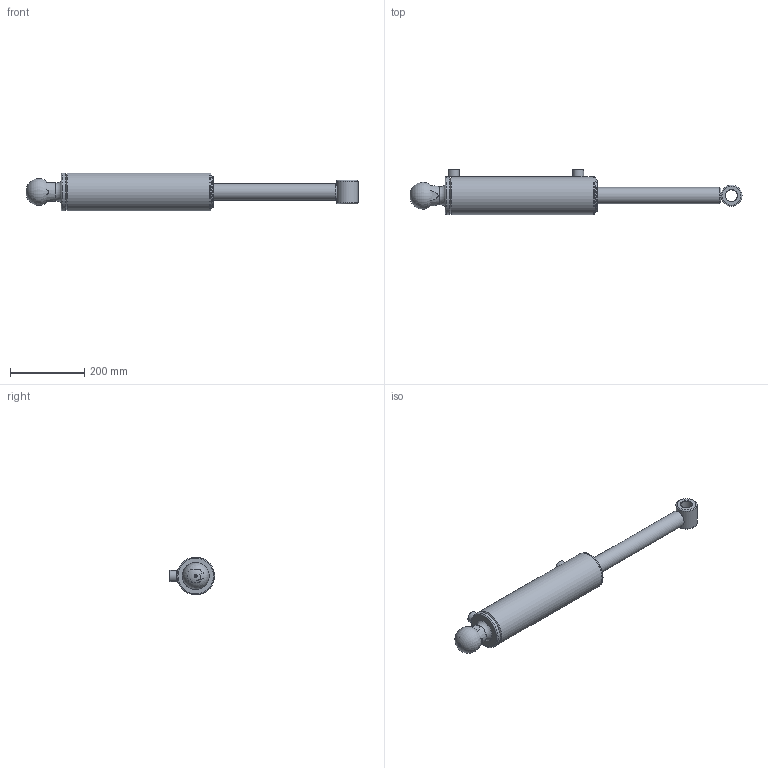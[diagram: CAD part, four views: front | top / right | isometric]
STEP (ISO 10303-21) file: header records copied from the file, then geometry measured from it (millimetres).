
FILE_DESCRIPTION(/* description */ ('Alibre Inc.'),/* implementation_level */ '2;1');
FILE_NAME(/* name */ 'export0',/* time_stamp */ '2016-08-16T10:03:23+12:00',/* author */ (''),/* organization */ (''),/* preprocessor_version */ 'ST-DEVELOPER v14',/* originating_system */ 'Alibre',/* authorisation */ '');
FILE_SCHEMA (('AUTOMOTIVE_DESIGN'));
Length unit declared in the file: centimetre
Bounding box: 894.86 x 121.6 x 101.6 mm (x, y, z)
Volume: 2369101.8 mm3; surface area: 503904.8 mm2
Topology: 12 solids, 12 shells, 148 faces, 306 edges, 191 vertices
Faces by surface type: cylinder 57, plane 48, cone 26, torus 16, bspline 1
Full cylindrical faces by diameter (mm): 7 x1, 8.3 x2, 8.4 x1, 12.7 x2, 19.1 x2, 29.35 x1, 29.972 x1, 30 x2, 31.75 x1, 31.8 x1, 31.801 x1, 44.45 x2, 44.53 x2, 50.8 x1, 53.25 x2, 53.97 x2, 57.15 x1, 73.03 x1, 81.9 x1, 83.06 x1, 84.3 x2, 85.27 x2, 85.5 x1, 87.53 x2, 88.75 x1, 88.79 x2, 88.9 x2, 92.1 x1, 101.6 x3
Entity records: 4071 total; most frequent: CARTESIAN_POINT 1180, DIRECTION 562, ORIENTED_EDGE 372, AXIS2_PLACEMENT_3D 297, FACE_BOUND 270, EDGE_LOOP 267, EDGE_CURVE 186, VERTEX_POINT 166
